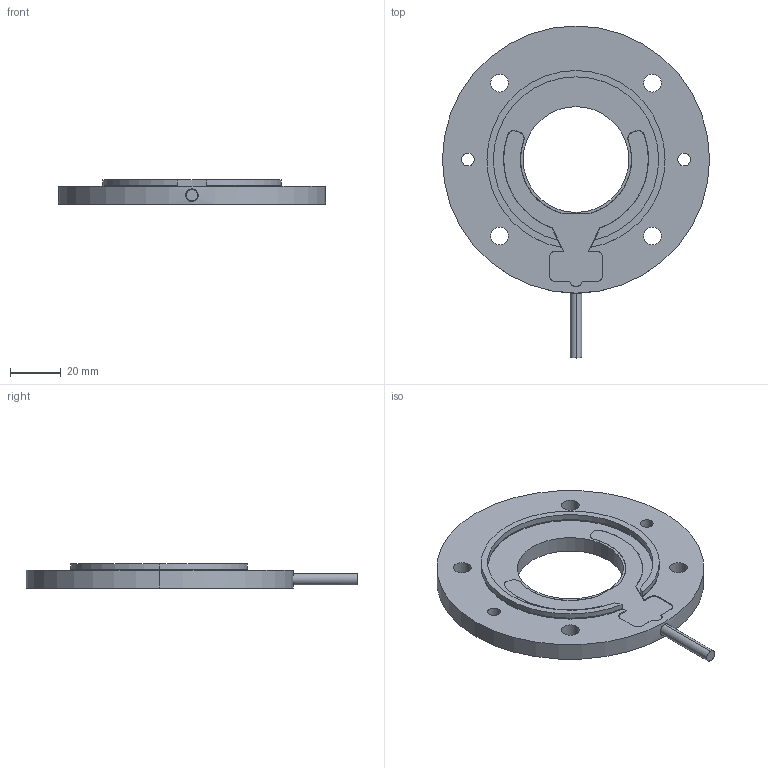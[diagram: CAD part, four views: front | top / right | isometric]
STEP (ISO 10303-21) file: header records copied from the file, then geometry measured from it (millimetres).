
FILE_DESCRIPTION (( 'STEP AP203' ), '1' );
FILE_NAME ('MRH105-7.STEP', '2024-12-13T10:02:34', ( '' ), ( '' ), 'SwSTEP 2.0', 'SolidWorks 2023', '' );
FILE_SCHEMA (( 'CONFIG_CONTROL_DESIGN' ));
Length unit declared in the file: millimetre
Products named in the file (1): MRH105-7
Bounding box: 105 x 130.5 x 9.5 mm (x, y, z)
Volume: 46678.1 mm3; surface area: 23602.7 mm2
Topology: 1 solids, 1 shells, 136 faces, 376 edges, 246 vertices
Faces by surface type: cylinder 78, plane 47, torus 11
Entity records: 4732 total; most frequent: CARTESIAN_POINT 1002, DIRECTION 820, ORIENTED_EDGE 752, EDGE_CURVE 376, AXIS2_PLACEMENT_3D 324, VERTEX_POINT 246, CIRCLE 187, LINE 172
